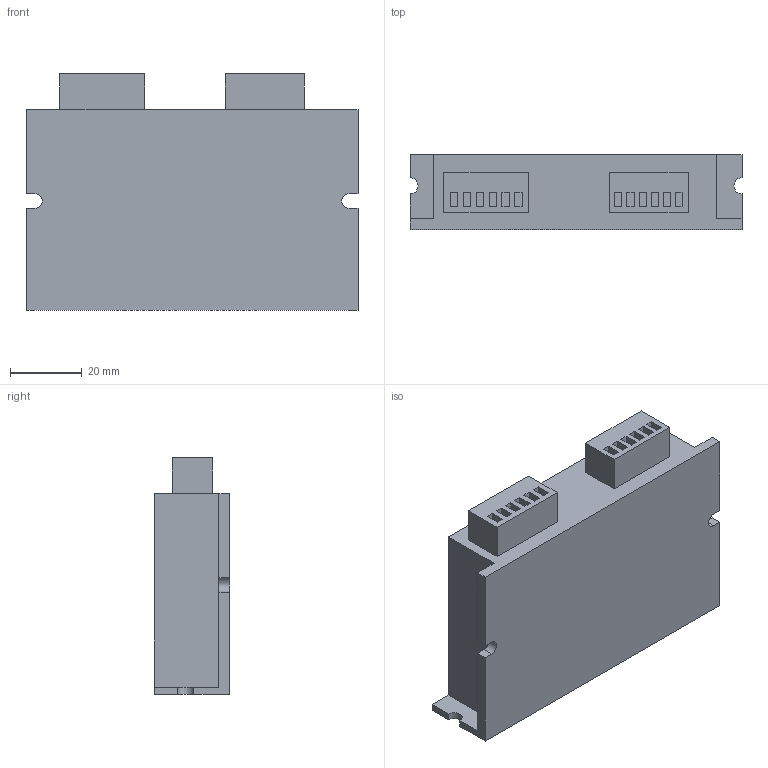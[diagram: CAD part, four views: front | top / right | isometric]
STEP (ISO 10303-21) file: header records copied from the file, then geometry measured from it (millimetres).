
FILE_DESCRIPTION (( 'STEP AP203' ), '1' );
FILE_NAME ('R42.STEP', '2019-05-20T07:57:33', ( 'wimxt.com' ), ( 'wimxt.com' ), 'SwSTEP 2.0', 'SolidWorks 2014', '' );
FILE_SCHEMA (( 'CONFIG_CONTROL_DESIGN' ));
Length unit declared in the file: millimetre
Products named in the file (1): R42
Bounding box: 92.6 x 21 x 66 mm (x, y, z)
Volume: 100464.4 mm3; surface area: 18439.5 mm2
Topology: 1 solids, 1 shells, 131 faces, 309 edges, 206 vertices
Faces by surface type: plane 102, cylinder 29
Entity records: 3818 total; most frequent: CARTESIAN_POINT 647, DIRECTION 631, ORIENTED_EDGE 618, EDGE_CURVE 309, LINE 251, VECTOR 251, VERTEX_POINT 206, AXIS2_PLACEMENT_3D 190
